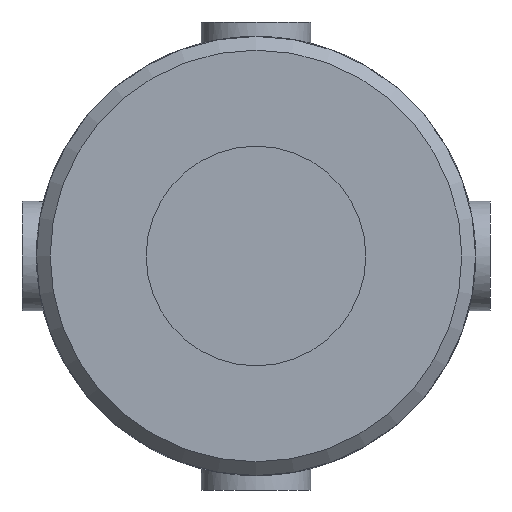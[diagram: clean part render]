
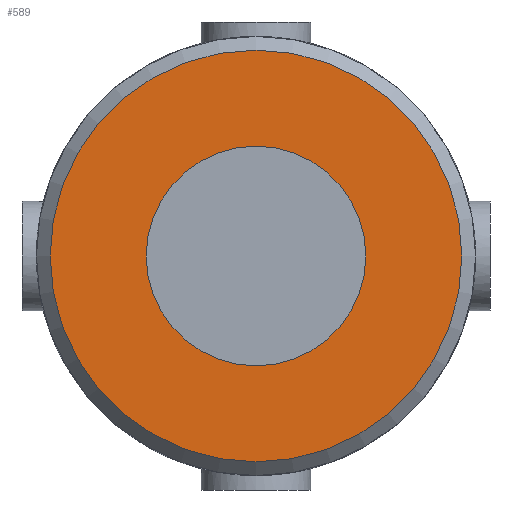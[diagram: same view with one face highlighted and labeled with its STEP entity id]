
A CAD part, left-side view. The second image highlights one B-rep face of the part: STEP entity #589.
In plain terms, the highlighted planar face has unit normal (-1, 0, 0) as drawn and (0, -1, 0) by its records, which use the part's own axes.
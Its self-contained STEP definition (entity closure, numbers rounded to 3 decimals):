
#121=PLANE('',#644);
#145=FACE_BOUND('',#221,.T.);
#168=FACE_OUTER_BOUND('',#220,.T.);
#220=EDGE_LOOP('',(#468));
#221=EDGE_LOOP('',(#469));
#257=CIRCLE('',#639,8.);
#259=CIRCLE('',#642,15.);
#292=VERTEX_POINT('',#908);
#294=VERTEX_POINT('',#913);
#354=EDGE_CURVE('',#292,#292,#257,.T.);
#356=EDGE_CURVE('',#294,#294,#259,.T.);
#468=ORIENTED_EDGE('',*,*,#356,.F.);
#469=ORIENTED_EDGE('',*,*,#354,.T.);
#589=ADVANCED_FACE('',(#168,#145),#121,.F.);
#639=AXIS2_PLACEMENT_3D('',#909,#749,#750);
#642=AXIS2_PLACEMENT_3D('',#914,#755,#756);
#644=AXIS2_PLACEMENT_3D('',#1090,#763,#764);
#749=DIRECTION('center_axis',(0.,1.,0.));
#750=DIRECTION('ref_axis',(-1.,0.,0.));
#755=DIRECTION('center_axis',(0.,1.,0.));
#756=DIRECTION('ref_axis',(1.,0.,0.));
#763=DIRECTION('center_axis',(0.,1.,0.));
#764=DIRECTION('ref_axis',(0.,0.,1.));
#908=CARTESIAN_POINT('',(8.,-42.,0.));
#909=CARTESIAN_POINT('Origin',(0.,-42.,0.));
#913=CARTESIAN_POINT('',(-15.,-42.,0.));
#914=CARTESIAN_POINT('Origin',(0.,-42.,0.));
#1090=CARTESIAN_POINT('Origin',(0.,-42.,0.));
